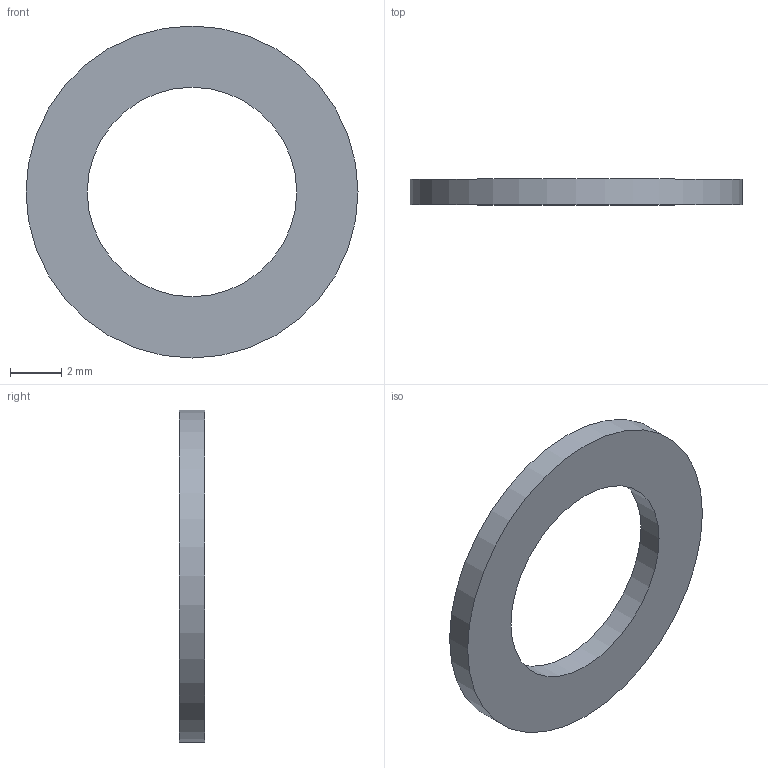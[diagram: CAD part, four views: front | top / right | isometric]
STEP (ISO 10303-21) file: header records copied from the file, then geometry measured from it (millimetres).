
FILE_DESCRIPTION(('Open CASCADE Model'),'2;1');
FILE_NAME('Open CASCADE Shape Model','2026-09-23T04:43:31',('Author'),( 'Open CASCADE'),'Open CASCADE STEP processor 7.9','Open CASCADE 7.9' ,'Unknown');
FILE_SCHEMA(('AUTOMOTIVE_DESIGN { 1 0 10303 214 1 1 1 1 }'));
Length unit declared in the file: millimetre
Products named in the file (1): Open CASCADE STEP translator 7.9 16
Bounding box: 13 x 1 x 13 mm (x, y, z)
Volume: 79.9 mm3; surface area: 226.4 mm2
Topology: 1 solids, 1 shells, 4 faces, 6 edges, 4 vertices
Faces by surface type: cylinder 2, plane 2
Full cylindrical faces by diameter (mm): 8.2 x1, 13 x1
Entity records: 186 total; most frequent: DIRECTION 32, CARTESIAN_POINT 27, ORIENTED_EDGE 12, PCURVE 12, DEFINITIONAL_REPRESENTATION 12, LINE 10, VECTOR 10, AXIS2_PLACEMENT_3D 9
